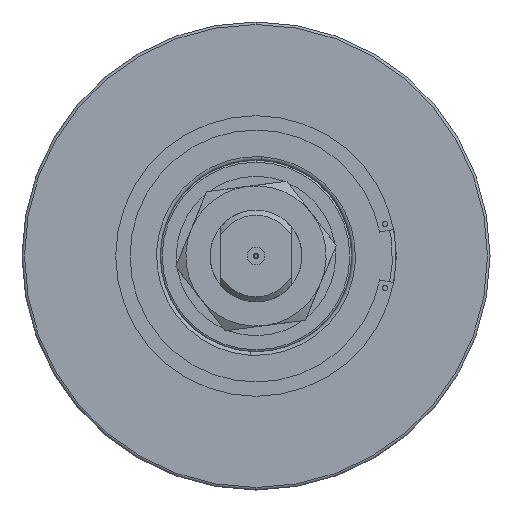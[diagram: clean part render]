
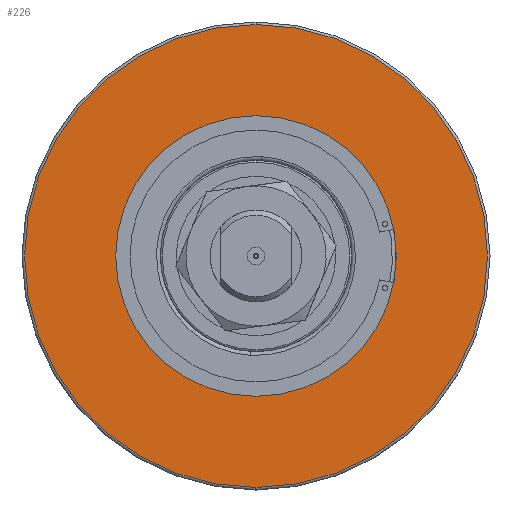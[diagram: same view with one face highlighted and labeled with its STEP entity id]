
A CAD part, left-side view. The second image highlights one B-rep face of the part: STEP entity #226.
In plain terms, the highlighted planar face has unit normal (-1, 0, 0).
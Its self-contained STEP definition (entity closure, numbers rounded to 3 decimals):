
#15 = CARTESIAN_POINT ( 'NONE',  ( 0., 0., 0. ) ) ;
#70 = EDGE_CURVE ( 'NONE', #2267, #345, #2256, .T. ) ;
#102 = AXIS2_PLACEMENT_3D ( 'NONE', #349, #547, #2220 ) ;
#139 = ORIENTED_EDGE ( 'NONE', *, *, #70, .T. ) ;
#226 = ADVANCED_FACE ( 'NONE', ( #1158, #1757 ), #1769, .T. ) ;
#261 = DIRECTION ( 'NONE',  ( -1., 0., 0. ) ) ;
#345 = VERTEX_POINT ( 'NONE', #1222 ) ;
#349 = CARTESIAN_POINT ( 'NONE',  ( 0., 0., 0. ) ) ;
#477 = DIRECTION ( 'NONE',  ( -1., 0., 0. ) ) ;
#484 = DIRECTION ( 'NONE',  ( 0., 0., 1. ) ) ;
#547 = DIRECTION ( 'NONE',  ( -1., 0., 0. ) ) ;
#602 = AXIS2_PLACEMENT_3D ( 'NONE', #15, #261, #1461 ) ;
#644 = VERTEX_POINT ( 'NONE', #2114 ) ;
#660 = EDGE_LOOP ( 'NONE', ( #2896, #1256 ) ) ;
#716 = DIRECTION ( 'NONE',  ( 0., 0., 1. ) ) ;
#851 = EDGE_LOOP ( 'NONE', ( #139, #2382 ) ) ;
#861 = AXIS2_PLACEMENT_3D ( 'NONE', #938, #477, #716 ) ;
#938 = CARTESIAN_POINT ( 'NONE',  ( 0., 0., 0. ) ) ;
#1113 = CARTESIAN_POINT ( 'NONE',  ( 0., 0., 110. ) ) ;
#1144 = DIRECTION ( 'NONE',  ( 0., 0., 1. ) ) ;
#1158 = FACE_OUTER_BOUND ( 'NONE', #851, .T. ) ;
#1222 = CARTESIAN_POINT ( 'NONE',  ( 0., 0., -181.5 ) ) ;
#1256 = ORIENTED_EDGE ( 'NONE', *, *, #1956, .F. ) ;
#1461 = DIRECTION ( 'NONE',  ( 0., 0., 1. ) ) ;
#1579 = VERTEX_POINT ( 'NONE', #1113 ) ;
#1609 = CARTESIAN_POINT ( 'NONE',  ( 0., 0., 0. ) ) ;
#1757 = FACE_BOUND ( 'NONE', #660, .T. ) ;
#1759 = AXIS2_PLACEMENT_3D ( 'NONE', #1609, #1862, #484 ) ;
#1769 = PLANE ( 'NONE',  #1909 ) ;
#1832 = EDGE_CURVE ( 'NONE', #1579, #644, #2835, .T. ) ;
#1858 = CARTESIAN_POINT ( 'NONE',  ( 0., 0., 0. ) ) ;
#1862 = DIRECTION ( 'NONE',  ( -1., 0., 0. ) ) ;
#1909 = AXIS2_PLACEMENT_3D ( 'NONE', #1858, #3048, #1144 ) ;
#1956 = EDGE_CURVE ( 'NONE', #644, #1579, #3071, .T. ) ;
#2068 = CARTESIAN_POINT ( 'NONE',  ( 0., 0., 181.5 ) ) ;
#2114 = CARTESIAN_POINT ( 'NONE',  ( 0., 0., -110. ) ) ;
#2209 = CIRCLE ( 'NONE', #602, 181.5 ) ;
#2220 = DIRECTION ( 'NONE',  ( 0., 0., 1. ) ) ;
#2256 = CIRCLE ( 'NONE', #1759, 181.5 ) ;
#2267 = VERTEX_POINT ( 'NONE', #2068 ) ;
#2382 = ORIENTED_EDGE ( 'NONE', *, *, #2928, .T. ) ;
#2835 = CIRCLE ( 'NONE', #861, 110. ) ;
#2896 = ORIENTED_EDGE ( 'NONE', *, *, #1832, .F. ) ;
#2928 = EDGE_CURVE ( 'NONE', #345, #2267, #2209, .T. ) ;
#3048 = DIRECTION ( 'NONE',  ( -1., 0., 0. ) ) ;
#3071 = CIRCLE ( 'NONE', #102, 110. ) ;
